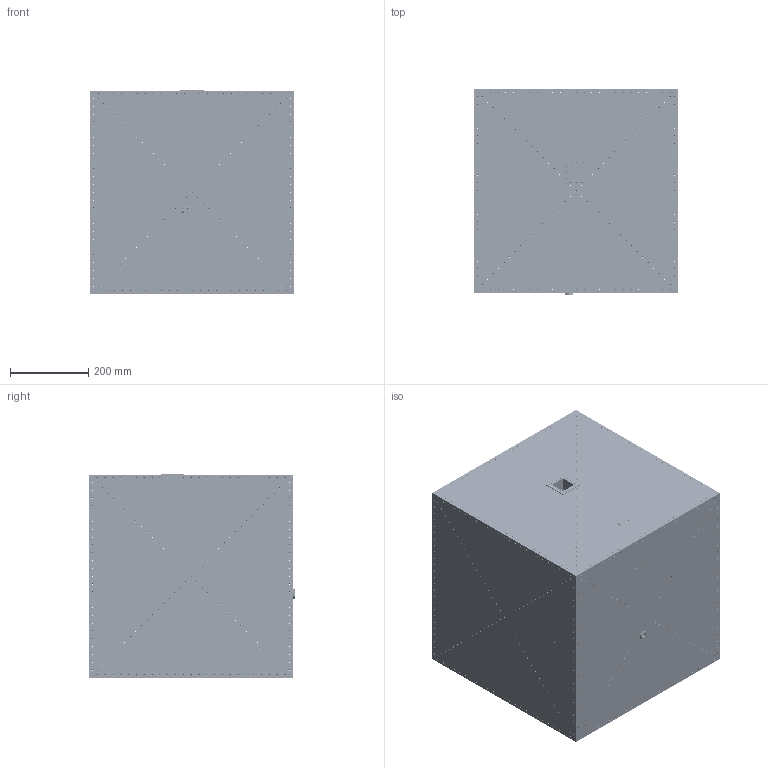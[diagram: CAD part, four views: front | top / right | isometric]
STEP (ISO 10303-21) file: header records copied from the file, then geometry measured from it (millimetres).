
FILE_DESCRIPTION (( 'STEP AP214' ), '1' );
FILE_NAME ('Assieme scatola esterna_3.STEP', '2016-02-26T17:50:16', ( '' ), ( '' ), 'SwSTEP 2.0', 'SolidWorks 2012', '' );
FILE_SCHEMA (( 'AUTOMOTIVE_DESIGN' ));
Products named in the file (17): Assieme scatola esterna_3; SC80; SC79; SC130; SC152; Assieme SC134sud e flange; SC134down; SC152_sud; SC134; vite M2 x 4; SC127; SC81; Assieme COPERCHIO; SC129; SC 152; SC134sud; SC44
Assembly tree (44 placements, depth 3):
  Assieme scatola esterna_3
    SC127  x4
    SC129  x4
    SC130  x4
    SC134  x3
    SC134down
    Assieme SC134sud e flange
      SC134sud
      SC44  x4
      SC152_sud  x2
    SC 152  x8
    Assieme COPERCHIO
      SC134
      SC79  x4
      SC152  x2
    SC80
    SC81  x2
    vite M2 x 4
Bounding box: 520 x 525 x 522 mm (x, y, z)
Volume: 3613368.7 mm3; surface area: 3748728.7 mm2
Topology: 46 solids, 46 shells, 7115 faces, 18830 edges, 11848 vertices
Faces by surface type: cylinder 4142, cone 2082, plane 633, bspline 258
Entity records: 105979 total; most frequent: CARTESIAN_POINT 25778, DIRECTION 17524, ORIENTED_EDGE 15696, EDGE_CURVE 7848, AXIS2_PLACEMENT_3D 7102, VERTEX_POINT 4884, EDGE_LOOP 4602, CIRCLE 4180
